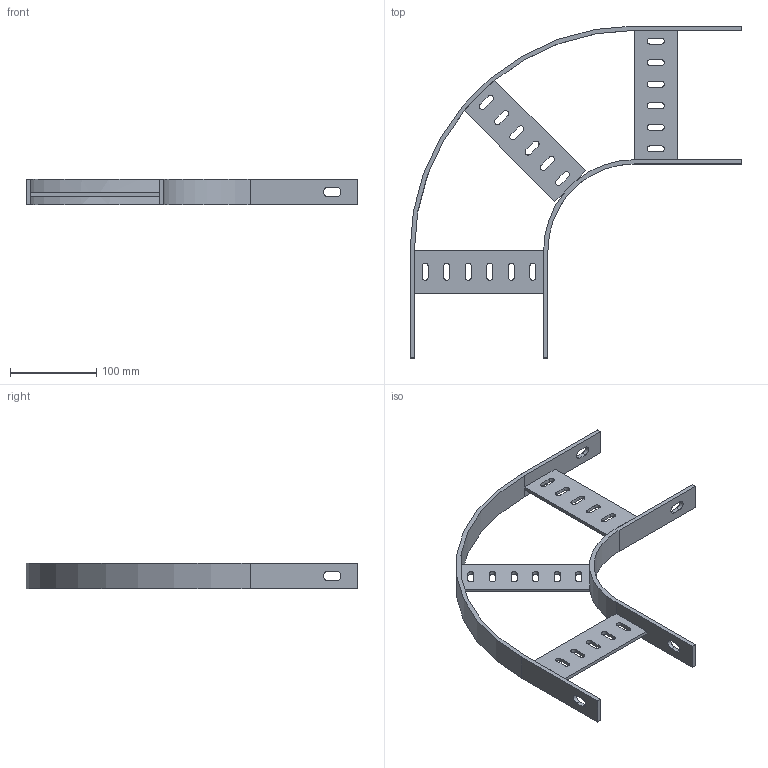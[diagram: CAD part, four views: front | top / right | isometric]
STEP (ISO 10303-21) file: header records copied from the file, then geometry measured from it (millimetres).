
FILE_DESCRIPTION(('Creo Elements/Direct Modeling STEP Export'),'2;1');
FILE_NAME('//pserver/office/EK/ME10-3D/3D-output/SLB 150F.stp','2020-03-10T15:05:51',(''),(''),'PTC Creo Elements/Direct Modeling STEP processor for AP214 (Solid Model)','PTC Creo Elements/Direct Modeling 19.0C 15-Aug-2015 (C) Parametric Technology GmbH','');
FILE_SCHEMA(('AUTOMOTIVE_DESIGN { 1 0 10303 214 1 1 1 1 }'));
Length unit declared in the file: millimetre
Products named in the file (1): SLB_150F
Bounding box: 385 x 385 x 30 mm (x, y, z)
Surface area: 121225.8 mm2 (no closed solid volume)
Topology: 0 solids, 1 shells, 122 faces, 358 edges, 236 vertices
Faces by surface type: plane 74, cylinder 48
Entity records: 4146 total; most frequent: ORIENTED_EDGE 720, CARTESIAN_POINT 709, DIRECTION 695, EDGE_CURVE 357, VECTOR 251, LINE 251, VERTEX_POINT 236, AXIS2_PLACEMENT_3D 222
